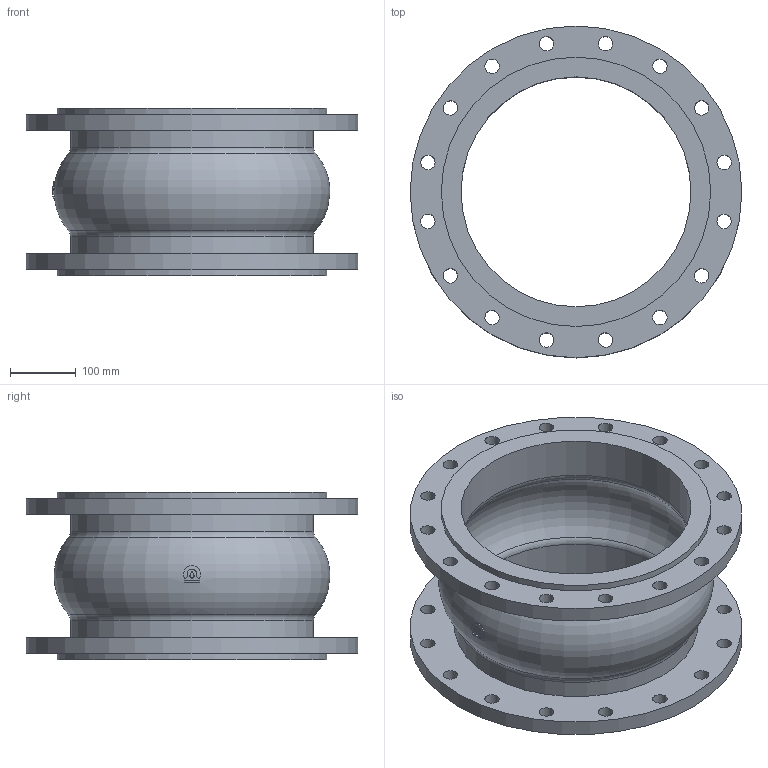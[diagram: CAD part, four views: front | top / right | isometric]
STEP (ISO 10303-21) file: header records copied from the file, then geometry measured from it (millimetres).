
FILE_DESCRIPTION(('STEP AP203'), '1');
FILE_NAME('Êîìïåíñàòîð KMS DN350 PN10_L255', '', ('UNSPECIFIED'), ('UNSPECIFIED'), 'ASCON STEP Converter 1.6', 'ASCON Math Kernel', '');
FILE_SCHEMA(('CONFIG_CONTROL_DESIGN'));
Length unit declared in the file: millimetre
Bounding box: 505 x 505 x 255 mm (x, y, z)
Volume: 7738398.6 mm3; surface area: 1076502.7 mm2
Topology: 1 solids, 1 shells, 69 faces, 172 edges, 112 vertices
Faces by surface type: cylinder 47, plane 13, torus 9
Full cylindrical faces by diameter (mm): 22 x32, 350 x2, 370 x2, 410 x2, 505 x2
Entity records: 3566 total; most frequent: CARTESIAN_POINT 1337, DIRECTION 334, ORIENTED_EDGE 252, EDGE_LOOP 188, AXIS2_PLACEMENT_3D 160, EDGE_CURVE 126, VERTEX_POINT 112, FACE_BOUND 96
